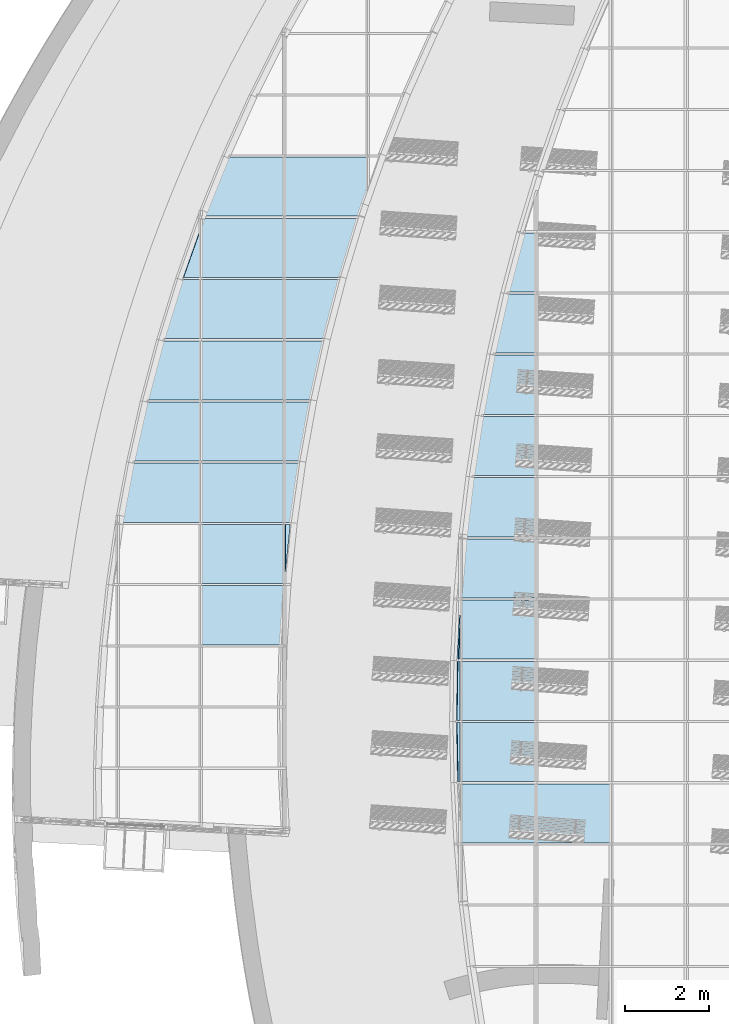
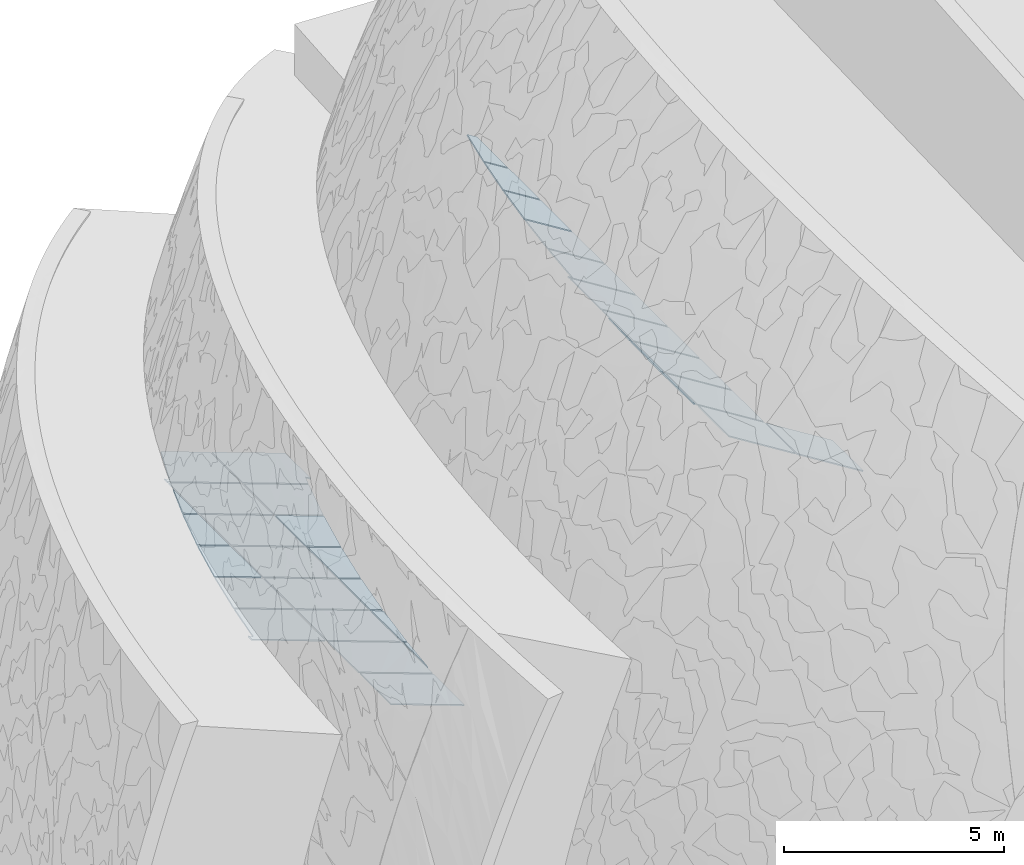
# One storey, part 39 of 82: 34 plates, 2 elements without a shape of their own.
"""IFC2X3 building model written with IfcOpenShell, lengths in millimetres."""

import ifcopenshell
import ifcopenshell.guid

model = None  # the IFC model being written
_history = None  # IfcOwnerHistory: only IFC2X3 demands one
_inside = {}  # id of a spatial element -> (the spatial element, [elements in it])
_under = {}  # id of a project, library or spatial element -> (it, [spatial elements below it])
_declared = {}  # id of a project -> (the project, [libraries it declares])
_typed = {}  # id of a type object -> (the type object, [elements of that type])
_made_of = {}  # id of a material, layer set ... -> (it, [elements and type objects made of it])


def new_model(schema):
    """Start an empty IFC model of exactly this schema.

    Asked for "IFC4X3", IfcOpenShell would pick the latest addendum, in which some entities
    have other attributes; the version numbers below select the first issue.
    IFC2X3 requires an IfcOwnerHistory on every rooted entity: one is made here for all.
    """
    global model, _history
    if schema == "IFC4X3":
        model = ifcopenshell.file(schema_version=(4, 3, 0, 0))
    else:
        model = ifcopenshell.file(schema=schema)
    _inside.clear()
    _under.clear()
    _declared.clear()
    _typed.clear()
    _made_of.clear()
    _history = None
    if model.schema == "IFC2X3":
        org = make("IfcOrganization", Name="unknown")
        user = make(
            "IfcPersonAndOrganization",
            ThePerson=make("IfcPerson", FamilyName="unknown"),
            TheOrganization=org,
        )
        app = make(
            "IfcApplication",
            ApplicationDeveloper=org,
            Version="unknown",
            ApplicationFullName="unknown",
            ApplicationIdentifier="unknown",
        )
        _history = make(
            "IfcOwnerHistory",
            OwningUser=user,
            OwningApplication=app,
            ChangeAction="ADDED",
            CreationDate=0,
        )
    return model


def make(cls, **values):
    """One entity of the class cls with the attributes given. An attribute that is None is left unset."""
    return model.create_entity(
        cls, **{name: value for name, value in values.items() if value is not None}
    )


def entity(cls, *values):
    """Any entity or typed value of the class cls, its attributes in the order of the schema. None: left unset."""
    e = model.create_entity(cls)
    for i, value in enumerate(values):
        if value is not None:
            e[i] = value
    return e


def rooted(cls, **values):
    """An entity with a GlobalId (a new one), such as an element, a storey or a relation."""
    return make(cls, GlobalId=ifcopenshell.guid.new(), OwnerHistory=_history, **values)


def si_unit(unit_type, name, prefix=None):
    """IfcSIUnit, for example si_unit("LENGTHUNIT", "METRE", prefix="MILLI")."""
    return make("IfcSIUnit", UnitType=unit_type, Prefix=prefix, Name=name)


def converted_unit(unit_type, name, factor, base, dimensions=None, offset=None):
    """IfcConversionBasedUnit, such as the inch: factor (a typed value) times the base unit."""
    return make(
        "IfcConversionBasedUnit"
        if offset is None
        else "IfcConversionBasedUnitWithOffset",
        ConversionOffset=offset,
        Dimensions=None
        if dimensions is None
        else entity("IfcDimensionalExponents", *dimensions),
        UnitType=unit_type,
        Name=name,
        ConversionFactor=make(
            "IfcMeasureWithUnit", ValueComponent=factor, UnitComponent=base
        ),
    )


def derived_unit(unit_type, elements):
    """IfcDerivedUnit: a product of units, each with its exponent."""
    return make(
        "IfcDerivedUnit",
        Elements=[
            make("IfcDerivedUnitElement", Unit=unit, Exponent=power)
            for unit, power in elements
        ],
        UnitType=unit_type,
    )


def assignment(units):
    """IfcUnitAssignment: the units of a project."""
    return None if units is None else make("IfcUnitAssignment", Units=units)


def point(xyz):
    """IfcCartesianPoint."""
    return None if xyz is None else make("IfcCartesianPoint", Coordinates=xyz)


def direction(xyz):
    """IfcDirection."""
    return None if xyz is None else make("IfcDirection", DirectionRatios=xyz)


def frame(location, z_axis=None, x_axis=None):
    """IfcAxis2Placement3D, a coordinate frame: its origin and axes. An axis left out is left unset."""
    return make(
        "IfcAxis2Placement3D",
        Location=point(location),
        Axis=direction(z_axis),
        RefDirection=direction(x_axis),
    )


def frame_2d(location, x_axis=None):
    """IfcAxis2Placement2D, a coordinate frame in the plane: its origin and x axis."""
    return make(
        "IfcAxis2Placement2D", Location=point(location), RefDirection=direction(x_axis)
    )


def origin():
    """The frame at (0, 0, 0) with its axes left unset."""
    return frame((0.0, 0.0, 0.0))


def place(relative_to, where):
    """IfcLocalPlacement: puts the frame where relative to a parent placement (None: the world)."""
    return make(
        "IfcLocalPlacement", PlacementRelTo=relative_to, RelativePlacement=where
    )


def context(
    kind, dimensions, precision=None, world=None, true_north=None, identifier=None
):
    """IfcGeometricRepresentationContext, for example the 3D "Model" context."""
    return make(
        "IfcGeometricRepresentationContext",
        ContextIdentifier=identifier,
        ContextType=kind,
        CoordinateSpaceDimension=dimensions,
        Precision=precision,
        WorldCoordinateSystem=world,
        TrueNorth=true_north,
    )


def subcontext(parent, identifier, kind, view, scale=None):
    """IfcGeometricRepresentationSubContext, for example "Body" below "Model"."""
    return make(
        "IfcGeometricRepresentationSubContext",
        ContextIdentifier=identifier,
        ContextType=kind,
        ParentContext=parent,
        TargetScale=scale,
        TargetView=view,
    )


def project(units=None, contexts=None):
    """IfcProject with its units and contexts."""
    return rooted(
        "IfcProject",
        Name="project",
        RepresentationContexts=contexts,
        UnitsInContext=assignment(units),
    )


def spatial(cls, under=None, at=None, **own):
    """A site, building, storey or space (cls), placed at a placement, below another one or the project."""
    s = rooted(cls, ObjectPlacement=at, **own)
    if under is not None:
        _under.setdefault(under.id(), (under, []))[1].append(s)
    return s


def polyline(points):
    """IfcPolyline through the points."""
    return make("IfcPolyline", Points=[point(p) for p in points])


def profile(cls, at=None, kind="AREA", **sizes):
    """A parametric profile (cls). Its sizes go by their IFC names, for example OverallWidth=200.0."""
    return make(cls, ProfileType=kind, Position=at, **sizes)


def rectangle(**sizes):
    """IfcRectangleProfileDef."""
    return profile("IfcRectangleProfileDef", **sizes)


def outline(outer, holes=None, kind="AREA"):
    """IfcArbitraryClosedProfileDef: a profile drawn as a closed curve; with holes, ...WithVoids."""
    if holes is None:
        return make("IfcArbitraryClosedProfileDef", ProfileType=kind, OuterCurve=outer)
    return make(
        "IfcArbitraryProfileDefWithVoids",
        ProfileType=kind,
        OuterCurve=outer,
        InnerCurves=holes,
    )


def extrude(swept, where, along, depth):
    """IfcExtrudedAreaSolid: the profile swept, set in the frame where, extruded along a direction by depth."""
    return make(
        "IfcExtrudedAreaSolid",
        SweptArea=swept,
        Position=where,
        ExtrudedDirection=direction(along),
        Depth=depth,
    )


def shape(context_of_items, identifier, shape_type, items):
    """IfcShapeRepresentation: the items that make up one representation, for example the "Body"."""
    return make(
        "IfcShapeRepresentation",
        ContextOfItems=context_of_items,
        RepresentationIdentifier=identifier,
        RepresentationType=shape_type,
        Items=items,
    )


def source(mapping_origin, context_of_items, identifier, shape_type, items):
    """IfcRepresentationMap: a shape defined once, which mapped items show again and again."""
    return make(
        "IfcRepresentationMap",
        MappingOrigin=mapping_origin,
        MappedRepresentation=shape(context_of_items, identifier, shape_type, items),
    )


def transform(
    local_origin,
    x_axis=None,
    y_axis=None,
    z_axis=None,
    scale=None,
    scale2=None,
    scale3=None,
    uniform=True,
):
    """IfcCartesianTransformationOperator3D, or its non-uniform kind. x_axis, y_axis, z_axis: its Axis1, 2, 3."""
    if uniform:
        return make(
            "IfcCartesianTransformationOperator3D",
            Axis1=direction(x_axis),
            Axis2=direction(y_axis),
            LocalOrigin=point(local_origin),
            Scale=scale,
            Axis3=direction(z_axis),
        )
    return make(
        "IfcCartesianTransformationOperator3DnonUniform",
        Axis1=direction(x_axis),
        Axis2=direction(y_axis),
        LocalOrigin=point(local_origin),
        Scale=scale,
        Axis3=direction(z_axis),
        Scale2=scale2,
        Scale3=scale3,
    )


def mapped(mapping_source, mapping_target):
    """IfcMappedItem: shows the shape of a source again, moved by a transform."""
    return make(
        "IfcMappedItem", MappingSource=mapping_source, MappingTarget=mapping_target
    )


def material(Name=None, Category=None):
    """IfcMaterial."""
    return make("IfcMaterial", Name=Name, Category=Category)


def layer(
    of_material, thickness, ventilated=None, Name=None, Category=None, Priority=None
):
    """IfcMaterialLayer: one layer of a wall or slab, of a material (None: an air gap)."""
    return make(
        "IfcMaterialLayer",
        Material=of_material,
        LayerThickness=thickness,
        IsVentilated=ventilated,
        Name=Name,
        Category=Category,
        Priority=Priority,
    )


def layer_set(layers, Name=None):
    """IfcMaterialLayerSet."""
    return make("IfcMaterialLayerSet", MaterialLayers=layers, LayerSetName=Name)


def layer_usage(for_layer_set, set_direction, sense, offset, extent=None):
    """IfcMaterialLayerSetUsage: how a layer set lies in its element."""
    return make(
        "IfcMaterialLayerSetUsage",
        ForLayerSet=for_layer_set,
        LayerSetDirection=set_direction,
        DirectionSense=sense,
        OffsetFromReferenceLine=offset,
        ReferenceExtent=extent,
    )


def made_of(thing, what):
    """Note that an element or type object is made of a material, layer set ...; save() writes the relation."""
    if what is not None:
        _made_of.setdefault(what.id(), (what, []))[1].append(thing)
    return thing


def type_object(cls, material=None, **own):
    """A type object (cls), such as IfcWallType, which elements share."""
    return made_of(rooted(cls, **own), material)


def type_shapes(of_type, sources):
    """Give a type object the sources (RepresentationMaps) that its elements show as mapped items."""
    of_type.RepresentationMaps = sources


def element(
    cls,
    number,
    at=None,
    inside=None,
    cuts=None,
    type_object=None,
    material=None,
    context=None,
    identifier="Body",
    shape_type=None,
    held_by="IfcProductDefinitionShape",
    body=None,
    shapes=None,
    **own,
):
    """One element of the class cls, such as IfcWall. Its Tag is "e" and its number.

    at: its placement. inside: the storey or other place that contains it. cuts: it is an
    opening in that element (IfcRelVoidsElement). A single representation is given by context,
    identifier, shape_type and body (its items); several are given by shapes. held_by: the class
    of the entity that holds the representations. save() writes the other relations.
    """
    e = rooted(cls, Tag="e%d" % number, ObjectPlacement=at, **own)
    if body is not None:
        shapes = [shape(context, identifier, shape_type, body)]
    if shapes is not None:
        e.Representation = make(held_by, Representations=shapes)
    if inside is not None:
        _inside.setdefault(inside.id(), (inside, []))[1].append(e)
    if cuts is not None:
        rooted(
            "IfcRelVoidsElement", RelatingBuildingElement=cuts, RelatedOpeningElement=e
        )
    if type_object is not None:
        _typed.setdefault(type_object.id(), (type_object, []))[1].append(e)
    return made_of(e, material)


def aggregate(whole, parts):
    """IfcRelAggregates: a whole, such as a stair, and the parts it consists of."""
    return rooted("IfcRelAggregates", RelatingObject=whole, RelatedObjects=parts)


def save(model, path):
    """Write the relations noted so far, then the file.

    IfcRelAggregates (storeys below a building ...), IfcRelContainedInSpatialStructure (elements
    in a storey), IfcRelDefinesByType, IfcRelAssociatesMaterial and IfcRelDeclares: one each for
    every whole, place, type object, material and project.
    """
    for whole, parts in _under.values():
        aggregate(whole, parts)
    for where, things in _inside.values():
        rooted(
            "IfcRelContainedInSpatialStructure",
            RelatedElements=things,
            RelatingStructure=where,
        )
    for kind, things in _typed.values():
        rooted("IfcRelDefinesByType", RelatedObjects=things, RelatingType=kind)
    for what, things in _made_of.values():
        rooted("IfcRelAssociatesMaterial", RelatedObjects=things, RelatingMaterial=what)
    for by, libraries in _declared.values():
        rooted("IfcRelDeclares", RelatingContext=by, RelatedDefinitions=libraries)
    model.write(path)


model = new_model("IFC2X3")

# Units and contexts
model_context = context("Model", 3, precision=0.01, world=origin(), true_north=direction((6.12303176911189e-17, 1.0)))
body_context = subcontext(model_context, "Body", "Model", "MODEL_VIEW")
ifc_project = project(units=[si_unit("LENGTHUNIT", "METRE", prefix="MILLI"), si_unit("AREAUNIT", "SQUARE_METRE"), si_unit("VOLUMEUNIT", "CUBIC_METRE"), converted_unit("PLANEANGLEUNIT", "DEGREE", entity("IfcRatioMeasure", 0.0174532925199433), si_unit("PLANEANGLEUNIT", "RADIAN"), dimensions=[0, 0, 0, 0, 0, 0, 0]), si_unit("MASSUNIT", "GRAM", prefix="KILO"), derived_unit("MASSDENSITYUNIT", [(si_unit("MASSUNIT", "GRAM", prefix="KILO"), 1), (si_unit("LENGTHUNIT", "METRE"), -3)]), si_unit("TIMEUNIT", "SECOND"), si_unit("FREQUENCYUNIT", "HERTZ"), si_unit("THERMODYNAMICTEMPERATUREUNIT", "DEGREE_CELSIUS"), derived_unit("THERMALTRANSMITTANCEUNIT", [(si_unit("MASSUNIT", "GRAM", prefix="KILO"), 1), (si_unit("THERMODYNAMICTEMPERATUREUNIT", "KELVIN"), -1), (si_unit("TIMEUNIT", "SECOND"), -3)]), derived_unit("VOLUMETRICFLOWRATEUNIT", [(si_unit("LENGTHUNIT", "METRE"), 3), (si_unit("TIMEUNIT", "SECOND"), -1)]), si_unit("ELECTRICCURRENTUNIT", "AMPERE"), si_unit("ELECTRICVOLTAGEUNIT", "VOLT"), si_unit("POWERUNIT", "WATT"), si_unit("FORCEUNIT", "NEWTON", prefix="KILO"), si_unit("ILLUMINANCEUNIT", "LUX"), si_unit("LUMINOUSFLUXUNIT", "LUMEN"), si_unit("LUMINOUSINTENSITYUNIT", "CANDELA"), derived_unit("USERDEFINED", [(si_unit("MASSUNIT", "GRAM", prefix="KILO"), -1), (si_unit("LENGTHUNIT", "METRE"), -2), (si_unit("TIMEUNIT", "SECOND"), 3), (si_unit("LUMINOUSFLUXUNIT", "LUMEN"), 1)]), derived_unit("LINEARVELOCITYUNIT", [(si_unit("LENGTHUNIT", "METRE"), 1), (si_unit("TIMEUNIT", "SECOND"), -1)]), si_unit("PRESSUREUNIT", "PASCAL"), derived_unit("USERDEFINED", [(si_unit("LENGTHUNIT", "METRE"), -2), (si_unit("MASSUNIT", "GRAM", prefix="KILO"), 1), (si_unit("TIMEUNIT", "SECOND"), -2)])], contexts=[model_context])

# Site, building, storey
site_placement = place(None, origin())
site = spatial("IfcSite", under=ifc_project, at=site_placement, Name="表面", CompositionType="ELEMENT")
building_placement = place(site_placement, origin())
building = spatial("IfcBuilding", under=site, at=building_placement, CompositionType="ELEMENT")
storey_placement = place(building_placement, origin())
storey = spatial("IfcBuildingStorey", under=building, at=storey_placement, Name="1F", CompositionType="ELEMENT", Elevation=0.0)

# Curtain wall, plates
curtain_wall_type = type_object("IfcCurtainWallType", Name="幕墙系统:1450 x 2100mm", PredefinedType="NOTDEFINED")
curtain_wall_1_placement = place(storey_placement, origin())
curtain_wall_1 = element("IfcCurtainWall", 1, at=curtain_wall_1_placement, inside=storey, type_object=curtain_wall_type, Name="幕墙系统:1450 x 2100mm", ObjectType="幕墙系统:1450 x 2100mm")
ifc_material = material(Name="<Unnamed>")
ifc_layer = layer(ifc_material, 30.0)
ifc_layer_set = layer_set([ifc_layer], Name="幕墙系统:1450 x 2100mm")
ifc_layer_usage_1 = layer_usage(ifc_layer_set, "AXIS3", "POSITIVE", 0.0)
plate_type_1 = type_object("IfcPlateType", Name="玻璃", PredefinedType="CURTAIN_PANEL", material=ifc_layer_set)
shared_shape_1 = source(origin(), body_context, "Body", "SweptSolid", [
    extrude(rectangle(XDim=30.0, YDim=1400.0, at=frame_2d((0.0, 3.97903932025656e-13), x_axis=(1.0, 0.0))), frame((0.0, 0.0, 0.0), z_axis=(0.0, 0.0, 1.0), x_axis=(0.0, 1.0, 0.0)), (0.0, 0.0, 1.0), 2050.0),
])
type_shapes(plate_type_1, [shared_shape_1])
plate_1_placement = place(curtain_wall_1_placement, frame((-27063.9048231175, -19913.9031535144, 16607.6015981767), z_axis=(-0.848048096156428, 0.0, 0.529919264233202), x_axis=(0.0, -1.0, 0.0)))
plate_1 = element("IfcPlate", 2, at=plate_1_placement, type_object=plate_type_1, material=ifc_layer_usage_1, Name="系统嵌板:玻璃", ObjectType="玻璃", context=body_context, shape_type="MappedRepresentation", body=[
    mapped(shared_shape_1, transform((0.0, 0.0, 0.0), scale=1.0)),
])
ifc_layer_usage_2 = layer_usage(ifc_layer_set, "AXIS3", "POSITIVE", 0.0)
plate_2_placement = place(curtain_wall_1_placement, frame((-28844.805825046, -14113.9031535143, 17720.4320530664), z_axis=(-0.848048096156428, 0.0, 0.529919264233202), x_axis=(0.0, -1.0, 0.0)))
plate_2 = element("IfcPlate", 3, at=plate_2_placement, type_object=plate_type_1, material=ifc_layer_usage_2, Name="系统嵌板:玻璃", ObjectType="玻璃", context=body_context, shape_type="MappedRepresentation", body=[
    mapped(shared_shape_1, transform((0.0, 0.0, 0.0), scale=1.0)),
])
ifc_layer_usage_3 = layer_usage(ifc_layer_set, "AXIS3", "POSITIVE", 0.0)
plate_3_placement = place(curtain_wall_1_placement, frame((-28844.805825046, -15563.9031535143, 17720.4320530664), z_axis=(-0.848048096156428, 0.0, 0.529919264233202), x_axis=(0.0, -1.0, 0.0)))
plate_3 = element("IfcPlate", 4, at=plate_3_placement, type_object=plate_type_1, material=ifc_layer_usage_3, Name="系统嵌板:玻璃", ObjectType="玻璃", context=body_context, shape_type="MappedRepresentation", body=[
    mapped(shared_shape_1, transform((0.0, 0.0, 0.0), scale=1.0)),
])
ifc_layer_usage_4 = layer_usage(ifc_layer_set, "AXIS3", "POSITIVE", 0.0)
plate_4_placement = place(curtain_wall_1_placement, frame((-28844.805825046, -17013.9031535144, 17720.4320530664), z_axis=(-0.848048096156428, 0.0, 0.529919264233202), x_axis=(0.0, -1.0, 0.0)))
plate_4 = element("IfcPlate", 5, at=plate_4_placement, type_object=plate_type_1, material=ifc_layer_usage_4, Name="系统嵌板:玻璃", ObjectType="玻璃", context=body_context, shape_type="MappedRepresentation", body=[
    mapped(shared_shape_1, transform((0.0, 0.0, 0.0), scale=1.0)),
])
ifc_layer_usage_5 = layer_usage(ifc_layer_set, "AXIS3", "POSITIVE", 0.0)
plate_5_placement = place(curtain_wall_1_placement, frame((-28844.805825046, -18463.9031535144, 17720.4320530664), z_axis=(-0.848048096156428, 0.0, 0.529919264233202), x_axis=(0.0, -1.0, 0.0)))
plate_5 = element("IfcPlate", 6, at=plate_5_placement, type_object=plate_type_1, material=ifc_layer_usage_5, Name="系统嵌板:玻璃", ObjectType="玻璃", context=body_context, shape_type="MappedRepresentation", body=[
    mapped(shared_shape_1, transform((0.0, 0.0, 0.0), scale=1.0)),
])
ifc_layer_usage_6 = layer_usage(ifc_layer_set, "AXIS3", "POSITIVE", 0.0)
plate_6_placement = place(curtain_wall_1_placement, frame((-28844.805825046, -19913.9031535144, 17720.4320530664), z_axis=(-0.848048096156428, 0.0, 0.529919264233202), x_axis=(0.0, -1.0, 0.0)))
plate_6 = element("IfcPlate", 7, at=plate_6_placement, type_object=plate_type_1, material=ifc_layer_usage_6, Name="系统嵌板:玻璃", ObjectType="玻璃", context=body_context, shape_type="MappedRepresentation", body=[
    mapped(shared_shape_1, transform((0.0, 0.0, 0.0), scale=1.0)),
])

curtain_wall_2_placement = place(storey_placement, origin())
curtain_wall_2 = element("IfcCurtainWall", 8, at=curtain_wall_2_placement, inside=storey, type_object=curtain_wall_type, Name="幕墙系统:1450 x 2100mm", ObjectType="幕墙系统:1450 x 2100mm")
ifc_layer_usage_7 = layer_usage(ifc_layer_set, "AXIS3", "POSITIVE", 0.0)
plate_7_placement = place(curtain_wall_2_placement, frame((-34806.7632320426, -6521.8767198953, 9988.89403753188), z_axis=(-0.93969262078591, 0.0, 0.342020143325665), x_axis=(0.0, -1.0, 0.0)))
plate_7 = element("IfcPlate", 9, at=plate_7_placement, type_object=plate_type_1, material=ifc_layer_usage_7, Name="系统嵌板:玻璃", ObjectType="玻璃", context=body_context, shape_type="MappedRepresentation", body=[
    mapped(shared_shape_1, transform((0.0, 0.0, 0.0), scale=1.0)),
])
ifc_layer_usage_8 = layer_usage(ifc_layer_set, "AXIS3", "POSITIVE", 0.0)
plate_8_placement = place(curtain_wall_2_placement, frame((-34806.7632320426, -7971.8767198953, 9988.89403753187), z_axis=(-0.93969262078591, 0.0, 0.342020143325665), x_axis=(0.0, -1.0, 0.0)))
plate_8 = element("IfcPlate", 10, at=plate_8_placement, type_object=plate_type_1, material=ifc_layer_usage_8, Name="系统嵌板:玻璃", ObjectType="玻璃", context=body_context, shape_type="MappedRepresentation", body=[
    mapped(shared_shape_1, transform((0.0, 0.0, 0.0), scale=1.0)),
])
ifc_layer_usage_9 = layer_usage(ifc_layer_set, "AXIS3", "POSITIVE", 0.0)
plate_9_placement = place(curtain_wall_2_placement, frame((-34806.7632320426, -9421.8767198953, 9988.89403753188), z_axis=(-0.93969262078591, 0.0, 0.342020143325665), x_axis=(0.0, -1.0, 0.0)))
plate_9 = element("IfcPlate", 11, at=plate_9_placement, type_object=plate_type_1, material=ifc_layer_usage_9, Name="系统嵌板:玻璃", ObjectType="玻璃", context=body_context, shape_type="MappedRepresentation", body=[
    mapped(shared_shape_1, transform((0.0, 0.0, 0.0), scale=1.0)),
])
ifc_layer_usage_10 = layer_usage(ifc_layer_set, "AXIS3", "POSITIVE", 0.0)
plate_10_placement = place(curtain_wall_2_placement, frame((-34806.7632320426, -10871.8767198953, 9988.89403753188), z_axis=(-0.93969262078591, 0.0, 0.342020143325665), x_axis=(0.0, -1.0, 0.0)))
plate_10 = element("IfcPlate", 12, at=plate_10_placement, type_object=plate_type_1, material=ifc_layer_usage_10, Name="系统嵌板:玻璃", ObjectType="玻璃", context=body_context, shape_type="MappedRepresentation", body=[
    mapped(shared_shape_1, transform((0.0, 0.0, 0.0), scale=1.0)),
])
ifc_layer_usage_11 = layer_usage(ifc_layer_set, "AXIS3", "POSITIVE", 0.0)
plate_11_placement = place(curtain_wall_2_placement, frame((-34806.7632320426, -12321.8767198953, 9988.89403753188), z_axis=(-0.93969262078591, 0.0, 0.342020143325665), x_axis=(0.0, -1.0, 0.0)))
plate_11 = element("IfcPlate", 13, at=plate_11_placement, type_object=plate_type_1, material=ifc_layer_usage_11, Name="系统嵌板:玻璃", ObjectType="玻璃", context=body_context, shape_type="MappedRepresentation", body=[
    mapped(shared_shape_1, transform((0.0, 0.0, 0.0), scale=1.0)),
])
ifc_layer_usage_12 = layer_usage(ifc_layer_set, "AXIS3", "POSITIVE", 0.0)
plate_12_placement = place(curtain_wall_2_placement, frame((-34806.7632320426, -13771.8767198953, 9988.89403753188), z_axis=(-0.93969262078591, 0.0, 0.342020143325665), x_axis=(0.0, -1.0, 0.0)))
plate_12 = element("IfcPlate", 14, at=plate_12_placement, type_object=plate_type_1, material=ifc_layer_usage_12, Name="系统嵌板:玻璃", ObjectType="玻璃", context=body_context, shape_type="MappedRepresentation", body=[
    mapped(shared_shape_1, transform((0.0, 0.0, 0.0), scale=1.0)),
])
ifc_layer_usage_13 = layer_usage(ifc_layer_set, "AXIS3", "POSITIVE", 0.0)
plate_13_placement = place(curtain_wall_2_placement, frame((-34806.7632320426, -15221.8767198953, 9988.89403753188), z_axis=(-0.93969262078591, 0.0, 0.342020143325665), x_axis=(0.0, -1.0, 0.0)))
plate_13 = element("IfcPlate", 15, at=plate_13_placement, type_object=plate_type_1, material=ifc_layer_usage_13, Name="系统嵌板:玻璃", ObjectType="玻璃", context=body_context, shape_type="MappedRepresentation", body=[
    mapped(shared_shape_1, transform((0.0, 0.0, 0.0), scale=1.0)),
])

# Plate
ifc_layer_usage_14 = layer_usage(ifc_layer_set, "AXIS3", "POSITIVE", 0.0)
plate_type_2 = type_object("IfcPlateType", Name="玻璃", PredefinedType="CURTAIN_PANEL", material=ifc_layer_set)
shared_shape_2 = source(origin(), body_context, "Body", "SweptSolid", [
    extrude(outline(polyline([(-263.815045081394, -700.0), (45.4158489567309, -700.0), (482.214241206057, 700.0), (-263.815045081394, 700.0), (-263.815045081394, -700.0)])), frame((0.0, -15.0, 263.81504508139), z_axis=(0.0, 1.0, 0.0), x_axis=(0.0, 0.0, 1.0)), (0.0, 0.0, 1.0), 30.0),
])
type_shapes(plate_type_2, [shared_shape_2])
plate_14_placement = place(curtain_wall_1_placement, frame((-28844.805825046, -6863.90315351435, 17720.4320530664), z_axis=(-0.848048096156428, 0.0, 0.529919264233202), x_axis=(0.0, -1.0, 0.0)))
plate_14 = element("IfcPlate", 16, at=plate_14_placement, type_object=plate_type_2, material=ifc_layer_usage_14, Name="系统嵌板:玻璃", ObjectType="玻璃", context=body_context, shape_type="MappedRepresentation", body=[
    mapped(shared_shape_2, transform((0.0, 0.0, 0.0), scale=1.0)),
])

ifc_layer_usage_15 = layer_usage(ifc_layer_set, "AXIS3", "POSITIVE", 0.0)
plate_type_3 = type_object("IfcPlateType", Name="玻璃", PredefinedType="CURTAIN_PANEL", material=ifc_layer_set)
shared_shape_3 = source(origin(), body_context, "Body", "SweptSolid", [
    extrude(outline(polyline([(-474.588818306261, -700.0), (287.79409102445, -700.0), (661.38354558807, 700.0), (-474.588818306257, 700.0), (-474.588818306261, -700.0)])), frame((0.0, -15.0, 474.588818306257), z_axis=(0.0, 1.0, 0.0), x_axis=(0.0, 0.0, 1.0)), (0.0, 0.0, 1.0), 30.0),
])
type_shapes(plate_type_3, [shared_shape_3])
plate_15_placement = place(curtain_wall_1_placement, frame((-28844.805825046, -8313.90315351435, 17720.4320530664), z_axis=(-0.848048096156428, 0.0, 0.529919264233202), x_axis=(0.0, -1.0, 0.0)))
plate_15 = element("IfcPlate", 17, at=plate_15_placement, type_object=plate_type_3, material=ifc_layer_usage_15, Name="系统嵌板:玻璃", ObjectType="玻璃", context=body_context, shape_type="MappedRepresentation", body=[
    mapped(shared_shape_3, transform((0.0, 0.0, 0.0), scale=1.0)),
])

ifc_layer_usage_16 = layer_usage(ifc_layer_set, "AXIS3", "POSITIVE", 0.0)
plate_type_4 = type_object("IfcPlateType", Name="玻璃", PredefinedType="CURTAIN_PANEL", material=ifc_layer_set)
shared_shape_4 = source(origin(), body_context, "Body", "SweptSolid", [
    extrude(outline(polyline([(-653.002204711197, -700.0), (496.779450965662, -700.0), (809.224958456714, 700.0), (-653.002204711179, 700.0), (-653.002204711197, -700.0)])), frame((0.0, -15.0, 653.002204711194), z_axis=(0.0, 1.0, 0.0), x_axis=(0.0, 0.0, 1.0)), (0.0, 0.0, 1.0), 30.0),
])
type_shapes(plate_type_4, [shared_shape_4])
plate_16_placement = place(curtain_wall_1_placement, frame((-28844.805825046, -9763.90315351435, 17720.4320530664), z_axis=(-0.848048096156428, 0.0, 0.529919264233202), x_axis=(0.0, -1.0, 0.0)))
plate_16 = element("IfcPlate", 18, at=plate_16_placement, type_object=plate_type_4, material=ifc_layer_usage_16, Name="系统嵌板:玻璃", ObjectType="玻璃", context=body_context, shape_type="MappedRepresentation", body=[
    mapped(shared_shape_4, transform((0.0, 0.0, 0.0), scale=1.0)),
])

ifc_layer_usage_17 = layer_usage(ifc_layer_set, "AXIS3", "POSITIVE", 0.0)
plate_type_5 = type_object("IfcPlateType", Name="玻璃", PredefinedType="CURTAIN_PANEL", material=ifc_layer_set)
shared_shape_5 = source(origin(), body_context, "Body", "SweptSolid", [
    extrude(outline(polyline([(-800.032459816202, -700.0), (673.552498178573, -700.0), (926.512421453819, 700.0), (-800.032459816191, 700.0), (-800.032459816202, -700.0)])), frame((0.0, -15.0, 800.032459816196), z_axis=(0.0, 1.0, 0.0), x_axis=(0.0, 0.0, 1.0)), (0.0, 0.0, 1.0), 30.0),
])
type_shapes(plate_type_5, [shared_shape_5])
plate_17_placement = place(curtain_wall_1_placement, frame((-28844.805825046, -11213.9031535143, 17720.4320530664), z_axis=(-0.848048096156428, 0.0, 0.529919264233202), x_axis=(0.0, -1.0, 0.0)))
plate_17 = element("IfcPlate", 19, at=plate_17_placement, type_object=plate_type_5, material=ifc_layer_usage_17, Name="系统嵌板:玻璃", ObjectType="玻璃", context=body_context, shape_type="MappedRepresentation", body=[
    mapped(shared_shape_5, transform((0.0, 0.0, 0.0), scale=1.0)),
])

ifc_layer_usage_18 = layer_usage(ifc_layer_set, "AXIS3", "POSITIVE", 0.0)
plate_type_6 = type_object("IfcPlateType", Name="玻璃", PredefinedType="CURTAIN_PANEL", material=ifc_layer_set)
shared_shape_6 = source(origin(), body_context, "Body", "SweptSolid", [
    extrude(outline(polyline([(-1293.66415761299, -916.702650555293), (441.86526915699, -916.702650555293), (632.791361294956, 443.828078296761), (756.335842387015, 422.982523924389), (756.335842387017, 483.297349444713), (-1293.66415761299, 483.297349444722), (-1293.66415761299, -916.702650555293)])), frame((216.702650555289, -15.0, 1293.66415761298), z_axis=(0.0, 1.0, 0.0), x_axis=(0.0, 0.0, 1.0)), (0.0, 0.0, 1.0), 30.0),
])
type_shapes(plate_type_6, [shared_shape_6])
plate_18_placement = place(curtain_wall_1_placement, frame((-28844.805825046, -12663.9031535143, 17720.4320530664), z_axis=(-0.848048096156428, 0.0, 0.529919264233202), x_axis=(0.0, -1.0, 0.0)))
plate_18 = element("IfcPlate", 20, at=plate_18_placement, type_object=plate_type_6, material=ifc_layer_usage_18, Name="系统嵌板:玻璃", ObjectType="玻璃", context=body_context, shape_type="MappedRepresentation", body=[
    mapped(shared_shape_6, transform((0.0, 0.0, 0.0), scale=1.0)),
])

ifc_layer_usage_19 = layer_usage(ifc_layer_set, "AXIS3", "POSITIVE", 0.0)
plate_type_7 = type_object("IfcPlateType", Name="玻璃", PredefinedType="CURTAIN_PANEL", material=ifc_layer_set)
shared_shape_7 = source(origin(), body_context, "Body", "SweptSolid", [
    extrude(outline(polyline([(-690.16308028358, -19.9379005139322), (346.812372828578, -19.9379005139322), (343.350707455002, 39.8758010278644), (-690.16308028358, -19.9379005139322)])), frame((172.54052892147, -15.0, 19.9712627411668), z_axis=(0.0, 1.0, 0.0), x_axis=(0.998329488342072, 0.0, 0.0577774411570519)), (0.0, 0.0, 1.0), 30.0),
])
type_shapes(plate_type_7, [shared_shape_7])
plate_19_placement = place(curtain_wall_1_placement, frame((-30625.7068269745, -15746.28156675, 18833.2625079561), z_axis=(-0.848048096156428, 0.0, 0.529919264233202), x_axis=(0.0, -1.0, 0.0)))
plate_19 = element("IfcPlate", 21, at=plate_19_placement, type_object=plate_type_7, material=ifc_layer_usage_19, Name="系统嵌板:玻璃", ObjectType="玻璃", context=body_context, shape_type="MappedRepresentation", body=[
    mapped(shared_shape_7, transform((0.0, 0.0, 0.0), scale=1.0)),
])

ifc_layer_usage_20 = layer_usage(ifc_layer_set, "AXIS3", "POSITIVE", 0.0)
plate_type_8 = type_object("IfcPlateType", Name="玻璃", PredefinedType="CURTAIN_PANEL", material=ifc_layer_set)
shared_shape_8 = source(origin(), body_context, "Body", "SweptSolid", [
    extrude(outline(polyline([(-37.2359259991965, -700.0), (24.7963001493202, -700.0), (49.6755518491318, 700.0), (-37.2359259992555, 700.0), (-37.2359259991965, -700.0)])), frame((0.0, -15.0, 37.2359259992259), z_axis=(0.0, 1.0, 0.0), x_axis=(0.0, 0.0, 1.0)), (0.0, 0.0, 1.0), 30.0),
])
type_shapes(plate_type_8, [shared_shape_8])
plate_20_placement = place(curtain_wall_1_placement, frame((-30625.7068269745, -17013.9031535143, 18833.2625079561), z_axis=(-0.848048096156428, 0.0, 0.529919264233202), x_axis=(0.0, -1.0, 0.0)))
plate_20 = element("IfcPlate", 22, at=plate_20_placement, type_object=plate_type_8, material=ifc_layer_usage_20, Name="系统嵌板:玻璃", ObjectType="玻璃", context=body_context, shape_type="MappedRepresentation", body=[
    mapped(shared_shape_8, transform((0.0, 0.0, 0.0), scale=1.0)),
])

ifc_layer_usage_21 = layer_usage(ifc_layer_set, "AXIS3", "POSITIVE", 0.0)
plate_type_9 = type_object("IfcPlateType", Name="玻璃", PredefinedType="CURTAIN_PANEL", material=ifc_layer_set)
shared_shape_9 = source(origin(), body_context, "Body", "SweptSolid", [
    extrude(outline(polyline([(-35.6067195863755, -700.0), (51.1794316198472, -700.0), (20.0340075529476, 700.0), (-35.6067195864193, 700.0), (-35.6067195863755, -700.0)])), frame((0.0, -15.0, 35.6067195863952), z_axis=(0.0, 1.0, 0.0), x_axis=(0.0, 0.0, 1.0)), (0.0, 0.0, 1.0), 30.0),
])
type_shapes(plate_type_9, [shared_shape_9])
plate_21_placement = place(curtain_wall_1_placement, frame((-30625.7068269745, -18463.9031535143, 18833.2625079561), z_axis=(-0.848048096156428, 0.0, 0.529919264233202), x_axis=(0.0, -1.0, 0.0)))
plate_21 = element("IfcPlate", 23, at=plate_21_placement, type_object=plate_type_9, material=ifc_layer_usage_21, Name="系统嵌板:玻璃", ObjectType="玻璃", context=body_context, shape_type="MappedRepresentation", body=[
    mapped(shared_shape_9, transform((0.0, 0.0, 0.0), scale=1.0)),
])

aggregate(curtain_wall_1, [plate_1, plate_14, plate_15, plate_16, plate_17, plate_18, plate_2, plate_3, plate_4, plate_5, plate_6, plate_19, plate_20, plate_21])

ifc_layer_usage_22 = layer_usage(ifc_layer_set, "AXIS3", "POSITIVE", 0.0)
plate_type_10 = type_object("IfcPlateType", Name="玻璃", PredefinedType="CURTAIN_PANEL", material=ifc_layer_set)
shared_shape_10 = source(origin(), body_context, "Body", "SweptSolid", [
    extrude(outline(polyline([(-739.549606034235, -842.780645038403), (1310.45039396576, -842.780645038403), (1310.45039396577, 557.219354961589), (-518.756164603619, 557.219354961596), (-623.045411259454, 260.67875171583), (-739.549606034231, 310.443828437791), (-739.549606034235, -842.780645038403)])), frame((142.780645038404, -15.0, 739.549606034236), z_axis=(0.0, 1.0, 0.0), x_axis=(0.0, 0.0, 1.0)), (0.0, 0.0, 1.0), 30.0),
])
type_shapes(plate_type_10, [shared_shape_10])
plate_22_placement = place(curtain_wall_2_placement, frame((-32833.4087283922, -5071.8767198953, 9270.65173654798), z_axis=(-0.93969262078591, 0.0, 0.342020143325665), x_axis=(0.0, -1.0, 0.0)))
plate_22 = element("IfcPlate", 24, at=plate_22_placement, type_object=plate_type_10, material=ifc_layer_usage_22, Name="系统嵌板:玻璃", ObjectType="玻璃", context=body_context, shape_type="MappedRepresentation", body=[
    mapped(shared_shape_10, transform((0.0, 0.0, 0.0), scale=1.0)),
])

ifc_layer_usage_23 = layer_usage(ifc_layer_set, "AXIS3", "POSITIVE", 0.0)
plate_type_11 = type_object("IfcPlateType", Name="玻璃", PredefinedType="CURTAIN_PANEL", material=ifc_layer_set)
shared_shape_11 = source(origin(), body_context, "Body", "SweptSolid", [
    extrude(outline(polyline([(-1020.14878970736, -700.0), (793.511273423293, -700.0), (793.511273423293, 700.0), (-566.873757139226, 700.0), (-1020.14878970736, -700.0)])), frame((0.0, -15.0, 1020.14878970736), z_axis=(0.0, 1.0, 0.0), x_axis=(0.0, 0.0, 1.0)), (0.0, 0.0, 1.0), 30.0),
])
type_shapes(plate_type_11, [shared_shape_11])
plate_23_placement = place(curtain_wall_2_placement, frame((-33055.4956230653, -6521.8767198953, 9351.48475562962), z_axis=(-0.93969262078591, 0.0, 0.342020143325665), x_axis=(0.0, -1.0, 0.0)))
plate_23 = element("IfcPlate", 25, at=plate_23_placement, type_object=plate_type_11, material=ifc_layer_usage_23, Name="系统嵌板:玻璃", ObjectType="玻璃", context=body_context, shape_type="MappedRepresentation", body=[
    mapped(shared_shape_11, transform((0.0, 0.0, 0.0), scale=1.0)),
])

ifc_layer_usage_24 = layer_usage(ifc_layer_set, "AXIS3", "POSITIVE", 0.0)
plate_type_12 = type_object("IfcPlateType", Name="玻璃", PredefinedType="CURTAIN_PANEL", material=ifc_layer_set)
shared_shape_12 = source(origin(), body_context, "Body", "SweptSolid", [
    extrude(outline(polyline([(-770.985433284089, -700.0), (576.327606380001, -700.0), (576.327606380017, 700.0), (-381.669779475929, 700.0), (-770.985433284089, -700.0)])), frame((0.0, -15.0, 770.98543328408), z_axis=(0.0, 1.0, 0.0), x_axis=(0.0, 0.0, 1.0)), (0.0, 0.0, 1.0), 30.0),
])
type_shapes(plate_type_12, [shared_shape_12])
plate_24_placement = place(curtain_wall_2_placement, frame((-33493.7184797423, -7971.87671989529, 9510.98483143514), z_axis=(-0.93969262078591, 0.0, 0.342020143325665), x_axis=(0.0, -1.0, 0.0)))
plate_24 = element("IfcPlate", 26, at=plate_24_placement, type_object=plate_type_12, material=ifc_layer_usage_24, Name="系统嵌板:玻璃", ObjectType="玻璃", context=body_context, shape_type="MappedRepresentation", body=[
    mapped(shared_shape_12, transform((0.0, 0.0, 0.0), scale=1.0)),
])

ifc_layer_usage_25 = layer_usage(ifc_layer_set, "AXIS3", "POSITIVE", 0.0)
plate_type_13 = type_object("IfcPlateType", Name="玻璃", PredefinedType="CURTAIN_PANEL", material=ifc_layer_set)
shared_shape_13 = source(origin(), body_context, "Body", "SweptSolid", [
    extrude(outline(polyline([(-555.304698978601, -700.0), (391.53278217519, -700.0), (391.532782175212, 700.0), (-227.760865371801, 700.0), (-555.304698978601, -700.0)])), frame((0.0, -15.0, 555.304698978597), z_axis=(0.0, 1.0, 0.0), x_axis=(0.0, 0.0, 1.0)), (0.0, 0.0, 1.0), 30.0),
])
type_shapes(plate_type_13, [shared_shape_13])
plate_25_placement = place(curtain_wall_2_placement, frame((-33870.0424068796, -9421.87671989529, 9647.95553935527), z_axis=(-0.93969262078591, 0.0, 0.342020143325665), x_axis=(0.0, -1.0, 0.0)))
plate_25 = element("IfcPlate", 27, at=plate_25_placement, type_object=plate_type_13, material=ifc_layer_usage_25, Name="系统嵌板:玻璃", ObjectType="玻璃", context=body_context, shape_type="MappedRepresentation", body=[
    mapped(shared_shape_13, transform((0.0, 0.0, 0.0), scale=1.0)),
])

ifc_layer_usage_26 = layer_usage(ifc_layer_set, "AXIS3", "POSITIVE", 0.0)
plate_type_14 = type_object("IfcPlateType", Name="玻璃", PredefinedType="CURTAIN_PANEL", material=ifc_layer_set)
shared_shape_14 = source(origin(), body_context, "Body", "SweptSolid", [
    extrude(outline(polyline([(-371.885605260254, -700.0), (238.117942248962, -700.0), (238.117942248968, 700.0), (-104.350279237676, 700.0), (-371.885605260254, -700.0)])), frame((0.0, -15.0, 371.885605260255), z_axis=(0.0, 1.0, 0.0), x_axis=(0.0, 0.0, 1.0)), (0.0, 0.0, 1.0), 30.0),
])
type_shapes(plate_type_14, [shared_shape_14])
plate_26_placement = place(curtain_wall_2_placement, frame((-34186.5627687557, -10871.8767198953, 9763.15952961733), z_axis=(-0.93969262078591, 0.0, 0.342020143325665), x_axis=(0.0, -1.0, 0.0)))
plate_26 = element("IfcPlate", 28, at=plate_26_placement, type_object=plate_type_14, material=ifc_layer_usage_26, Name="系统嵌板:玻璃", ObjectType="玻璃", context=body_context, shape_type="MappedRepresentation", body=[
    mapped(shared_shape_14, transform((0.0, 0.0, 0.0), scale=1.0)),
])

ifc_layer_usage_27 = layer_usage(ifc_layer_set, "AXIS3", "POSITIVE", 0.0)
plate_type_15 = type_object("IfcPlateType", Name="玻璃", PredefinedType="CURTAIN_PANEL", material=ifc_layer_set)
shared_shape_15 = source(origin(), body_context, "Body", "SweptSolid", [
    extrude(outline(polyline([(-219.736212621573, -700.0), (115.277243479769, -700.0), (115.27724347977, 700.0), (-10.8182743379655, 700.0), (-219.736212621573, -700.0)])), frame((0.0, -15.0, 219.736212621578), z_axis=(0.0, 1.0, 0.0), x_axis=(0.0, 0.0, 1.0)), (0.0, 0.0, 1.0), 30.0),
])
type_shapes(plate_type_15, [shared_shape_15])
plate_27_placement = place(curtain_wall_2_placement, frame((-34444.9689284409, -12321.8767198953, 9857.21168009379), z_axis=(-0.93969262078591, 0.0, 0.342020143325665), x_axis=(0.0, -1.0, 0.0)))
plate_27 = element("IfcPlate", 29, at=plate_27_placement, type_object=plate_type_15, material=ifc_layer_usage_27, Name="系统嵌板:玻璃", ObjectType="玻璃", context=body_context, shape_type="MappedRepresentation", body=[
    mapped(shared_shape_15, transform((0.0, 0.0, 0.0), scale=1.0)),
])

ifc_layer_usage_28 = layer_usage(ifc_layer_set, "AXIS3", "POSITIVE", 0.0)
plate_type_16 = type_object("IfcPlateType", Name="玻璃", PredefinedType="CURTAIN_PANEL", material=ifc_layer_set)
shared_shape_16 = source(origin(), body_context, "Body", "SweptSolid", [
    extrude(outline(polyline([(-371.371340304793, -40.1496453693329), (742.742680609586, -40.1496453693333), (-371.371340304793, 80.2992907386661), (-371.371340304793, -40.1496453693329)])), frame((-185.6856701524, -15.0, 80.2992907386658), z_axis=(0.0, 1.0, 0.0), x_axis=(1.0, 0.0, 0.0)), (0.0, 0.0, 1.0), 30.0),
])
type_shapes(plate_type_16, [shared_shape_16])
plate_28_placement = place(curtain_wall_2_placement, frame((-34646.5936245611, -13628.9337303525, 9930.59706797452), z_axis=(-0.93969262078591, 0.0, 0.342020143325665), x_axis=(0.0, -1.0, 0.0)))
plate_28 = element("IfcPlate", 30, at=plate_28_placement, type_object=plate_type_16, material=ifc_layer_usage_28, Name="系统嵌板:玻璃", ObjectType="玻璃", context=body_context, shape_type="MappedRepresentation", body=[
    mapped(shared_shape_16, transform((0.0, 0.0, 0.0), scale=1.0)),
])

ifc_layer_usage_29 = layer_usage(ifc_layer_set, "AXIS3", "POSITIVE", 0.0)
plate_type_17 = type_object("IfcPlateType", Name="玻璃", PredefinedType="CURTAIN_PANEL", material=ifc_layer_set)
shared_shape_17 = source(origin(), body_context, "Body", "SweptSolid", [
    extrude(outline(polyline([(-1234.82198837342, -895.898249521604), (136.949792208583, -895.898249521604), (702.338161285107, 421.377640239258), (815.178011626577, 362.215357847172), (815.178011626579, 504.10175047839), (-1234.82198837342, 504.101750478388), (-1234.82198837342, -895.898249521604)])), frame((195.8982495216, -15.0, 1234.82198837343), z_axis=(0.0, 1.0, 0.0), x_axis=(0.0, 0.0, 1.0)), (0.0, 0.0, 1.0), 30.0),
])
type_shapes(plate_type_17, [shared_shape_17])
plate_29_placement = place(curtain_wall_2_placement, frame((-34806.7632320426, -5071.8767198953, 9988.89403753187), z_axis=(-0.93969262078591, 0.0, 0.342020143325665), x_axis=(0.0, -1.0, 0.0)))
plate_29 = element("IfcPlate", 31, at=plate_29_placement, type_object=plate_type_17, material=ifc_layer_usage_29, Name="系统嵌板:玻璃", ObjectType="玻璃", context=body_context, shape_type="MappedRepresentation", body=[
    mapped(shared_shape_17, transform((0.0, 0.0, 0.0), scale=1.0)),
])

ifc_layer_usage_30 = layer_usage(ifc_layer_set, "AXIS3", "POSITIVE", 0.0)
plate_type_18 = type_object("IfcPlateType", Name="玻璃", PredefinedType="CURTAIN_PANEL", material=ifc_layer_set)
shared_shape_18 = source(origin(), body_context, "Body", "SweptSolid", [
    extrude(outline(polyline([(-742.880612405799, -130.586316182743), (445.185581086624, -130.586316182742), (297.695031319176, 261.172632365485), (-742.880612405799, -130.586316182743)])), frame((185.313004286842, -15.0, 139.534358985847), z_axis=(0.0, 1.0, 0.0), x_axis=(0.935872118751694, 0.0, 0.352339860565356)), (0.0, 0.0, 1.0), 30.0),
])
type_shapes(plate_type_18, [shared_shape_18])
plate_30_placement = place(curtain_wall_2_placement, frame((-36780.117735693, -6665.93770703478, 10707.1363385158), z_axis=(-0.93969262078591, 0.0, 0.342020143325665), x_axis=(0.0, -1.0, 0.0)))
plate_30 = element("IfcPlate", 32, at=plate_30_placement, type_object=plate_type_18, material=ifc_layer_usage_30, Name="系统嵌板:玻璃", ObjectType="玻璃", context=body_context, shape_type="MappedRepresentation", body=[
    mapped(shared_shape_18, transform((0.0, 0.0, 0.0), scale=1.0)),
])

ifc_layer_usage_31 = layer_usage(ifc_layer_set, "AXIS3", "POSITIVE", 0.0)
plate_type_19 = type_object("IfcPlateType", Name="玻璃", PredefinedType="CURTAIN_PANEL", material=ifc_layer_set)
shared_shape_19 = source(origin(), body_context, "Body", "SweptSolid", [
    extrude(outline(polyline([(-334.460564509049, -700.0), (104.147960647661, -700.0), (564.773168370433, 700.0), (-334.460564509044, 700.0), (-334.460564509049, -700.0)])), frame((0.0, -15.0, 334.460564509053), z_axis=(0.0, 1.0, 0.0), x_axis=(0.0, 0.0, 1.0)), (0.0, 0.0, 1.0), 30.0),
])
type_shapes(plate_type_19, [shared_shape_19])
plate_31_placement = place(curtain_wall_2_placement, frame((-36780.117735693, -7971.8767198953, 10707.1363385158), z_axis=(-0.93969262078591, 0.0, 0.342020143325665), x_axis=(0.0, -1.0, 0.0)))
plate_31 = element("IfcPlate", 33, at=plate_31_placement, type_object=plate_type_19, material=ifc_layer_usage_31, Name="系统嵌板:玻璃", ObjectType="玻璃", context=body_context, shape_type="MappedRepresentation", body=[
    mapped(shared_shape_19, transform((0.0, 0.0, 0.0), scale=1.0)),
])

ifc_layer_usage_32 = layer_usage(ifc_layer_set, "AXIS3", "POSITIVE", 0.0)
plate_type_20 = type_object("IfcPlateType", Name="玻璃", PredefinedType="CURTAIN_PANEL", material=ifc_layer_set)
shared_shape_20 = source(origin(), body_context, "Body", "SweptSolid", [
    extrude(outline(polyline([(-557.490996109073, -700.0), (359.054951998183, -700.0), (755.927040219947, 700.0), (-557.490996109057, 700.0), (-557.490996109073, -700.0)])), frame((0.0, -15.0, 557.490996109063), z_axis=(0.0, 1.0, 0.0), x_axis=(0.0, 0.0, 1.0)), (0.0, 0.0, 1.0), 30.0),
])
type_shapes(plate_type_20, [shared_shape_20])
plate_32_placement = place(curtain_wall_2_placement, frame((-36780.117735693, -9421.87671989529, 10707.1363385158), z_axis=(-0.93969262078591, 0.0, 0.342020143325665), x_axis=(0.0, -1.0, 0.0)))
plate_32 = element("IfcPlate", 34, at=plate_32_placement, type_object=plate_type_20, material=ifc_layer_usage_32, Name="系统嵌板:玻璃", ObjectType="玻璃", context=body_context, shape_type="MappedRepresentation", body=[
    mapped(shared_shape_20, transform((0.0, 0.0, 0.0), scale=1.0)),
])

ifc_layer_usage_33 = layer_usage(ifc_layer_set, "AXIS3", "POSITIVE", 0.0)
plate_type_21 = type_object("IfcPlateType", Name="玻璃", PredefinedType="CURTAIN_PANEL", material=ifc_layer_set)
shared_shape_21 = source(origin(), body_context, "Body", "SweptSolid", [
    extrude(outline(polyline([(-747.912261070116, -700.0), (580.248667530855, -700.0), (915.575854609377, 700.0), (-747.912261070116, 700.0), (-747.912261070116, -700.0)])), frame((0.0, -15.0, 747.912261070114), z_axis=(0.0, 1.0, 0.0), x_axis=(0.0, 0.0, 1.0)), (0.0, 0.0, 1.0), 30.0),
])
type_shapes(plate_type_21, [shared_shape_21])
plate_33_placement = place(curtain_wall_2_placement, frame((-36780.117735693, -10871.8767198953, 10707.1363385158), z_axis=(-0.93969262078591, 0.0, 0.342020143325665), x_axis=(0.0, -1.0, 0.0)))
plate_33 = element("IfcPlate", 35, at=plate_33_placement, type_object=plate_type_21, material=ifc_layer_usage_33, Name="系统嵌板:玻璃", ObjectType="玻璃", context=body_context, shape_type="MappedRepresentation", body=[
    mapped(shared_shape_21, transform((0.0, 0.0, 0.0), scale=1.0)),
])

ifc_layer_usage_34 = layer_usage(ifc_layer_set, "AXIS3", "POSITIVE", 0.0)
plate_type_22 = type_object("IfcPlateType", Name="玻璃", PredefinedType="CURTAIN_PANEL", material=ifc_layer_set)
shared_shape_22 = source(origin(), body_context, "Body", "SweptSolid", [
    extrude(outline(polyline([(-1283.94194347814, -882.861023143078), (391.808027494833, -882.861023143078), (643.959746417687, 380.402706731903), (766.058056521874, 351.04138584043), (766.058056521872, 517.138976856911), (-1283.94194347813, 517.138976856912), (-1283.94194347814, -882.861023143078)])), frame((182.861023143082, -15.0, 1283.94194347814), z_axis=(0.0, 1.0, 0.0), x_axis=(0.0, 0.0, 1.0)), (0.0, 0.0, 1.0), 30.0),
])
type_shapes(plate_type_22, [shared_shape_22])
plate_34_placement = place(curtain_wall_2_placement, frame((-36780.117735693, -12321.8767198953, 10707.1363385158), z_axis=(-0.93969262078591, 0.0, 0.342020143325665), x_axis=(0.0, -1.0, 0.0)))
plate_34 = element("IfcPlate", 36, at=plate_34_placement, type_object=plate_type_22, material=ifc_layer_usage_34, Name="系统嵌板:玻璃", ObjectType="玻璃", context=body_context, shape_type="MappedRepresentation", body=[
    mapped(shared_shape_22, transform((0.0, 0.0, 0.0), scale=1.0)),
])

aggregate(curtain_wall_2, [plate_22, plate_23, plate_24, plate_25, plate_26, plate_27, plate_28, plate_29, plate_7, plate_8, plate_9, plate_10, plate_11, plate_12, plate_13, plate_30, plate_31, plate_32, plate_33, plate_34])

save(model, "model.ifc")
